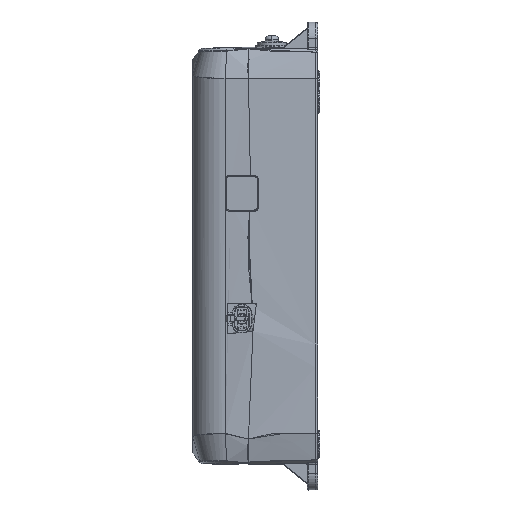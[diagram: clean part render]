
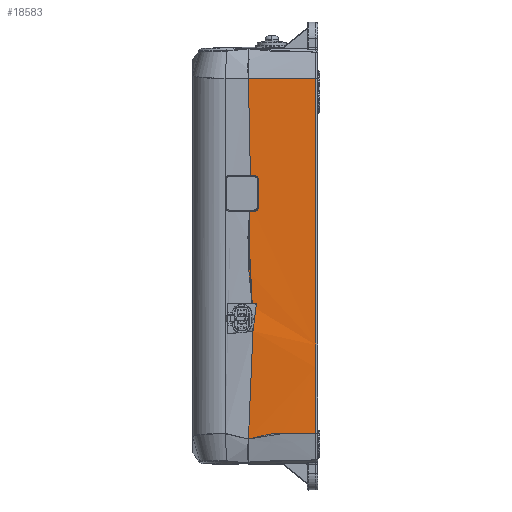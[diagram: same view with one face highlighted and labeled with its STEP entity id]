
A CAD part, left-side view. The second image highlights one B-rep face of the part: STEP entity #18583.
In plain terms, the highlighted planar face has unit normal (-1, -0.026, 0).
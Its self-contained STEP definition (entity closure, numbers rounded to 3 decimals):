
#211 = CARTESIAN_POINT ( 'NONE',  ( -60.441, -21.351, 84.993 ) ) ;
#357 = VERTEX_POINT ( 'NONE', #21410 ) ;
#418 = EDGE_LOOP ( 'NONE', ( #953, #1217, #17513, #3749, #22915, #23892, #13189, #7665, #3720, #23247 ) ) ;
#490 = CARTESIAN_POINT ( 'NONE',  ( -60.9, -3.6, -27.567 ) ) ;
#953 = ORIENTED_EDGE ( 'NONE', *, *, #6014, .F. ) ;
#1004 = CARTESIAN_POINT ( 'NONE',  ( -60.948, -2., 31.5 ) ) ;
#1217 = ORIENTED_EDGE ( 'NONE', *, *, #10387, .F. ) ;
#1243 = CARTESIAN_POINT ( 'NONE',  ( -60.948, -2., 28.5 ) ) ;
#1317 = CARTESIAN_POINT ( 'NONE',  ( -60.156, -32.026, -85.073 ) ) ;
#1395 = B_SPLINE_CURVE_WITH_KNOTS ( 'NONE', 3,
 ( #6836, #19902, #8755, #18329 ),
 .UNSPECIFIED., .F., .F.,
 ( 4, 4 ),
 ( 0., 1. ),
 .UNSPECIFIED. ) ;
#1880 = CARTESIAN_POINT ( 'NONE',  ( -61.818, -1.925, -35.998 ) ) ;
#2151 = VERTEX_POINT ( 'NONE', #19665 ) ;
#2257 = CARTESIAN_POINT ( 'NONE',  ( -61., 0., -8.5 ) ) ;
#2434 = CARTESIAN_POINT ( 'NONE',  ( -60.161, -32.026, 85.022 ) ) ;
#2637 = CARTESIAN_POINT ( 'NONE',  ( -60.156, -32.026, -85.073 ) ) ;
#2875 = CARTESIAN_POINT ( 'NONE',  ( -60.161, -32.026, -63.941 ) ) ;
#3487 = CARTESIAN_POINT ( 'NONE',  ( -61., 0.5, -84.935 ) ) ;
#3628 = CARTESIAN_POINT ( 'NONE',  ( -60.161, -32.026, 42.481 ) ) ;
#3642 = CARTESIAN_POINT ( 'NONE',  ( -60.161, -32.026, -53.4 ) ) ;
#3720 = ORIENTED_EDGE ( 'NONE', *, *, #5809, .F. ) ;
#3749 = ORIENTED_EDGE ( 'NONE', *, *, #16965, .F. ) ;
#3843 = VERTEX_POINT ( 'NONE', #1880 ) ;
#4853 = B_SPLINE_CURVE_WITH_KNOTS ( 'NONE', 3,
 ( #1317, #21394, #14370, #10242 ),
 .UNSPECIFIED., .F., .F.,
 ( 4, 4 ),
 ( 0., 1. ),
 .UNSPECIFIED. ) ;
#5102 = B_SPLINE_CURVE_WITH_KNOTS ( 'NONE', 3,
 ( #11985, #1243, #1004, #15981 ),
 .UNSPECIFIED., .F., .F.,
 ( 4, 4 ),
 ( -1., 0. ),
 .UNSPECIFIED. ) ;
#5291 = PLANE ( 'NONE',  #5639 ) ;
#5639 = AXIS2_PLACEMENT_3D ( 'NONE', #17640, #23200, #16281 ) ;
#5809 = EDGE_CURVE ( 'NONE', #16936, #14918, #10088, .T. ) ;
#6014 = EDGE_CURVE ( 'NONE', #2151, #357, #14742, .T. ) ;
#6430 = CARTESIAN_POINT ( 'NONE',  ( -59.907, 0.253, -87.645 ) ) ;
#6777 = CARTESIAN_POINT ( 'NONE',  ( -60.833, -1.625, -24.174 ) ) ;
#6836 = CARTESIAN_POINT ( 'NONE',  ( -60.161, -32.026, -42.6 ) ) ;
#7578 = VERTEX_POINT ( 'NONE', #13414 ) ;
#7665 = ORIENTED_EDGE ( 'NONE', *, *, #21077, .F. ) ;
#7901 = CARTESIAN_POINT ( 'NONE',  ( -61., 0., 8.5 ) ) ;
#8039 = EDGE_CURVE ( 'NONE', #15759, #3843, #8066, .T. ) ;
#8066 = B_SPLINE_CURVE_WITH_KNOTS ( 'NONE', 3,
 ( #3487, #9241, #12896, #20274 ),
 .UNSPECIFIED., .F., .F.,
 ( 4, 4 ),
 ( 0., 1. ),
 .UNSPECIFIED. ) ;
#8755 = CARTESIAN_POINT ( 'NONE',  ( -60.161, -32.026, -49.8 ) ) ;
#9011 = CARTESIAN_POINT ( 'NONE',  ( -60.161, -32.026, 85.022 ) ) ;
#9148 = CARTESIAN_POINT ( 'NONE',  ( -60.161, -32.026, -42.6 ) ) ;
#9241 = CARTESIAN_POINT ( 'NONE',  ( -61., 0.5, -68.147 ) ) ;
#9455 = EDGE_CURVE ( 'NONE', #9649, #15759, #4853, .T. ) ;
#9644 = CARTESIAN_POINT ( 'NONE',  ( -60.9, -3.6, -32.433 ) ) ;
#9649 = VERTEX_POINT ( 'NONE', #21000 ) ;
#10088 = B_SPLINE_CURVE_WITH_KNOTS ( 'NONE', 3,
 ( #12687, #3628, #16537, #9148 ),
 .UNSPECIFIED., .F., .F.,
 ( 4, 4 ),
 ( 0., 1. ),
 .UNSPECIFIED. ) ;
#10242 = CARTESIAN_POINT ( 'NONE',  ( -61., 0., -84.935 ) ) ;
#10387 = EDGE_CURVE ( 'NONE', #7578, #2151, #5102, .T. ) ;
#10453 = B_SPLINE_CURVE_WITH_KNOTS ( 'NONE', 3,
 ( #17466, #2257, #7901, #15292 ),
 .UNSPECIFIED., .F., .F.,
 ( 4, 4 ),
 ( 0., 1. ),
 .UNSPECIFIED. ) ;
#10954 = CARTESIAN_POINT ( 'NONE',  ( -61., 0., 84.935 ) ) ;
#11317 = B_SPLINE_CURVE_WITH_KNOTS ( 'NONE', 3,
 ( #16805, #9644, #490, #20918 ),
 .UNSPECIFIED., .F., .F.,
 ( 4, 4 ),
 ( 0., 1. ),
 .UNSPECIFIED. ) ;
#11985 = CARTESIAN_POINT ( 'NONE',  ( -60.948, -2., 25.5 ) ) ;
#12687 = CARTESIAN_POINT ( 'NONE',  ( -60.161, -32.026, 85.022 ) ) ;
#12784 = CARTESIAN_POINT ( 'NONE',  ( -60.72, -10.675, 84.964 ) ) ;
#12804 = VERTEX_POINT ( 'NONE', #6777 ) ;
#12896 = CARTESIAN_POINT ( 'NONE',  ( -61., 0.5, -51.36 ) ) ;
#13189 = ORIENTED_EDGE ( 'NONE', *, *, #20880, .F. ) ;
#13414 = CARTESIAN_POINT ( 'NONE',  ( -60.737, -0.521, 25.471 ) ) ;
#13885 = CARTESIAN_POINT ( 'NONE',  ( -61., 0.5, 34.572 ) ) ;
#14004 = CARTESIAN_POINT ( 'NONE',  ( -61., 0.5, 68.147 ) ) ;
#14247 = FACE_OUTER_BOUND ( 'NONE', #418, .T. ) ;
#14370 = CARTESIAN_POINT ( 'NONE',  ( -60.72, -10.675, -84.964 ) ) ;
#14742 = B_SPLINE_CURVE_WITH_KNOTS ( 'NONE', 3,
 ( #13885, #23430, #14004, #15933 ),
 .UNSPECIFIED., .F., .F.,
 ( 4, 4 ),
 ( 0., 1. ),
 .UNSPECIFIED. ) ;
#14918 = VERTEX_POINT ( 'NONE', #21899 ) ;
#15292 = CARTESIAN_POINT ( 'NONE',  ( -61., 0., 25.5 ) ) ;
#15759 = VERTEX_POINT ( 'NONE', #6430 ) ;
#15933 = CARTESIAN_POINT ( 'NONE',  ( -61., 0.5, 84.935 ) ) ;
#15981 = CARTESIAN_POINT ( 'NONE',  ( -60.948, -2., 34.5 ) ) ;
#16012 = VERTEX_POINT ( 'NONE', #3642 ) ;
#16281 = DIRECTION ( 'NONE',  ( 0., 0., -1. ) ) ;
#16330 = EDGE_CURVE ( 'NONE', #12804, #7578, #10453, .T. ) ;
#16537 = CARTESIAN_POINT ( 'NONE',  ( -60.161, -32.026, -0.059 ) ) ;
#16805 = CARTESIAN_POINT ( 'NONE',  ( -60.9, -3.6, -37.3 ) ) ;
#16936 = VERTEX_POINT ( 'NONE', #2434 ) ;
#16965 = EDGE_CURVE ( 'NONE', #3843, #12804, #11317, .T. ) ;
#17466 = CARTESIAN_POINT ( 'NONE',  ( -61., 0., -25.5 ) ) ;
#17513 = ORIENTED_EDGE ( 'NONE', *, *, #16330, .F. ) ;
#17640 = CARTESIAN_POINT ( 'NONE',  ( -60.581, -16.013, 0. ) ) ;
#18329 = CARTESIAN_POINT ( 'NONE',  ( -60.161, -32.026, -53.4 ) ) ;
#18583 = ADVANCED_FACE ( 'NONE', ( #14247 ), #5291, .F. ) ;
#18706 = EDGE_CURVE ( 'NONE', #357, #16936, #22494, .T. ) ;
#19665 = CARTESIAN_POINT ( 'NONE',  ( -60.974, -0.785, 34.531 ) ) ;
#19902 = CARTESIAN_POINT ( 'NONE',  ( -60.161, -32.026, -46.2 ) ) ;
#20274 = CARTESIAN_POINT ( 'NONE',  ( -61., 0.5, -34.572 ) ) ;
#20880 = EDGE_CURVE ( 'NONE', #16012, #9649, #23617, .T. ) ;
#20918 = CARTESIAN_POINT ( 'NONE',  ( -60.9, -3.6, -22.7 ) ) ;
#21000 = CARTESIAN_POINT ( 'NONE',  ( -60.156, -32.026, -85.073 ) ) ;
#21077 = EDGE_CURVE ( 'NONE', #14918, #16012, #1395, .T. ) ;
#21394 = CARTESIAN_POINT ( 'NONE',  ( -60.441, -21.351, -84.993 ) ) ;
#21410 = CARTESIAN_POINT ( 'NONE',  ( -60.884, 0.274, 84.986 ) ) ;
#21899 = CARTESIAN_POINT ( 'NONE',  ( -60.161, -32.026, -42.6 ) ) ;
#22494 = B_SPLINE_CURVE_WITH_KNOTS ( 'NONE', 3,
 ( #10954, #12784, #211, #9011 ),
 .UNSPECIFIED., .F., .F.,
 ( 4, 4 ),
 ( 0., 1. ),
 .UNSPECIFIED. ) ;
#22915 = ORIENTED_EDGE ( 'NONE', *, *, #8039, .F. ) ;
#22918 = CARTESIAN_POINT ( 'NONE',  ( -60.161, -32.026, -74.481 ) ) ;
#23200 = DIRECTION ( 'NONE',  ( 1., 0.026, 0. ) ) ;
#23247 = ORIENTED_EDGE ( 'NONE', *, *, #18706, .F. ) ;
#23288 = CARTESIAN_POINT ( 'NONE',  ( -60.161, -32.026, -53.4 ) ) ;
#23430 = CARTESIAN_POINT ( 'NONE',  ( -61., 0.5, 51.36 ) ) ;
#23617 = B_SPLINE_CURVE_WITH_KNOTS ( 'NONE', 3,
 ( #23288, #2875, #22918, #2637 ),
 .UNSPECIFIED., .F., .F.,
 ( 4, 4 ),
 ( 0., 1. ),
 .UNSPECIFIED. ) ;
#23892 = ORIENTED_EDGE ( 'NONE', *, *, #9455, .F. ) ;
